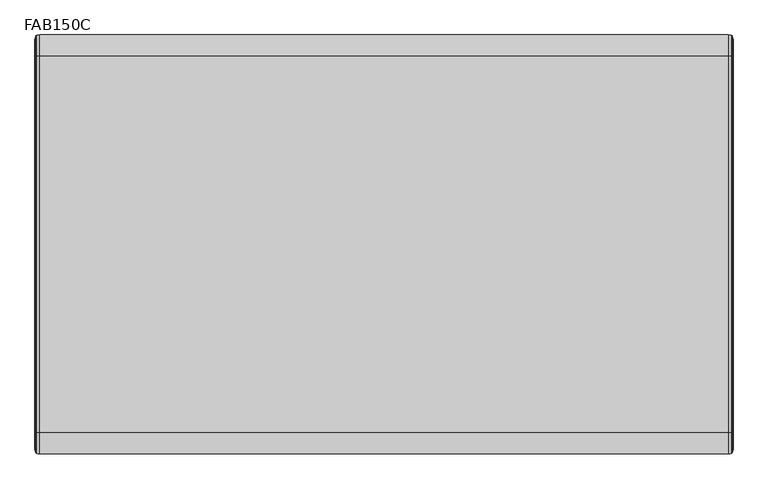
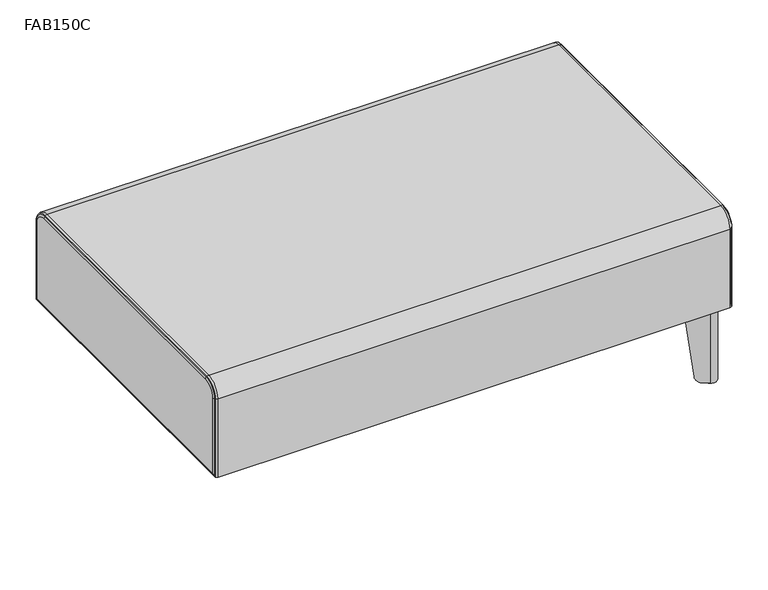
"""IFC4 building model written with IfcOpenShell, lengths in millimetres: furniture geometry, Stance_HC-Flora-Bench_Straight : FAB150C."""

import ifcopenshell
import ifcopenshell.guid

model = None  # the IFC model being written
_history = None  # IfcOwnerHistory: only IFC2X3 demands one
_inside = {}  # id of a spatial element -> (the spatial element, [elements in it])
_under = {}  # id of a project, library or spatial element -> (it, [spatial elements below it])
_declared = {}  # id of a project -> (the project, [libraries it declares])
_typed = {}  # id of a type object -> (the type object, [elements of that type])
_made_of = {}  # id of a material, layer set ... -> (it, [elements and type objects made of it])


def new_model(schema):
    """Start an empty IFC model of exactly this schema.

    Asked for "IFC4X3", IfcOpenShell would pick the latest addendum, in which some entities
    have other attributes; the version numbers below select the first issue.
    IFC2X3 requires an IfcOwnerHistory on every rooted entity: one is made here for all.
    """
    global model, _history
    if schema == "IFC4X3":
        model = ifcopenshell.file(schema_version=(4, 3, 0, 0))
    else:
        model = ifcopenshell.file(schema=schema)
    _inside.clear()
    _under.clear()
    _declared.clear()
    _typed.clear()
    _made_of.clear()
    _history = None
    if model.schema == "IFC2X3":
        org = make("IfcOrganization", Name="unknown")
        user = make(
            "IfcPersonAndOrganization",
            ThePerson=make("IfcPerson", FamilyName="unknown"),
            TheOrganization=org,
        )
        app = make(
            "IfcApplication",
            ApplicationDeveloper=org,
            Version="unknown",
            ApplicationFullName="unknown",
            ApplicationIdentifier="unknown",
        )
        _history = make(
            "IfcOwnerHistory",
            OwningUser=user,
            OwningApplication=app,
            ChangeAction="ADDED",
            CreationDate=0,
        )
    return model


def make(cls, **values):
    """One entity of the class cls with the attributes given. An attribute that is None is left unset."""
    return model.create_entity(
        cls, **{name: value for name, value in values.items() if value is not None}
    )


def rooted(cls, **values):
    """An entity with a GlobalId (a new one), such as an element, a storey or a relation."""
    return make(cls, GlobalId=ifcopenshell.guid.new(), OwnerHistory=_history, **values)


def si_unit(unit_type, name, prefix=None):
    """IfcSIUnit, for example si_unit("LENGTHUNIT", "METRE", prefix="MILLI")."""
    return make("IfcSIUnit", UnitType=unit_type, Prefix=prefix, Name=name)


def assignment(units):
    """IfcUnitAssignment: the units of a project."""
    return None if units is None else make("IfcUnitAssignment", Units=units)


def point(xyz):
    """IfcCartesianPoint."""
    return None if xyz is None else make("IfcCartesianPoint", Coordinates=xyz)


def direction(xyz):
    """IfcDirection."""
    return None if xyz is None else make("IfcDirection", DirectionRatios=xyz)


def frame(location, z_axis=None, x_axis=None):
    """IfcAxis2Placement3D, a coordinate frame: its origin and axes. An axis left out is left unset."""
    return make(
        "IfcAxis2Placement3D",
        Location=point(location),
        Axis=direction(z_axis),
        RefDirection=direction(x_axis),
    )


def frame_2d(location, x_axis=None):
    """IfcAxis2Placement2D, a coordinate frame in the plane: its origin and x axis."""
    return make(
        "IfcAxis2Placement2D", Location=point(location), RefDirection=direction(x_axis)
    )


def origin():
    """The frame at (0, 0, 0) with its axes left unset."""
    return frame((0.0, 0.0, 0.0))


def origin_with_axes():
    """The frame at (0, 0, 0) with the z axis (0, 0, 1) and the x axis (1, 0, 0) written out."""
    return frame((0.0, 0.0, 0.0), z_axis=(0.0, 0.0, 1.0), x_axis=(1.0, 0.0, 0.0))


def place(relative_to, where):
    """IfcLocalPlacement: puts the frame where relative to a parent placement (None: the world)."""
    return make(
        "IfcLocalPlacement", PlacementRelTo=relative_to, RelativePlacement=where
    )


def context(
    kind, dimensions, precision=None, world=None, true_north=None, identifier=None
):
    """IfcGeometricRepresentationContext, for example the 3D "Model" context."""
    return make(
        "IfcGeometricRepresentationContext",
        ContextIdentifier=identifier,
        ContextType=kind,
        CoordinateSpaceDimension=dimensions,
        Precision=precision,
        WorldCoordinateSystem=world,
        TrueNorth=true_north,
    )


def project(units=None, contexts=None):
    """IfcProject with its units and contexts."""
    return rooted(
        "IfcProject",
        Name="project",
        RepresentationContexts=contexts,
        UnitsInContext=assignment(units),
    )


def spatial(cls, under=None, at=None, **own):
    """A site, building, storey or space (cls), placed at a placement, below another one or the project."""
    s = rooted(cls, ObjectPlacement=at, **own)
    if under is not None:
        _under.setdefault(under.id(), (under, []))[1].append(s)
    return s


def polyline(points):
    """IfcPolyline through the points."""
    return make("IfcPolyline", Points=[point(p) for p in points])


def circle_curve(where, radius):
    """IfcCircle in the frame where."""
    return make("IfcCircle", Position=where, Radius=radius)


def ellipse_curve(where, semi_axis1, semi_axis2):
    """IfcEllipse in the frame where."""
    return make(
        "IfcEllipse", Position=where, SemiAxis1=semi_axis1, SemiAxis2=semi_axis2
    )


def trimmed(basis, trim1, trim2, sense, master):
    """IfcTrimmedCurve: the piece of a basis curve between two trims."""
    return make(
        "IfcTrimmedCurve",
        BasisCurve=basis,
        Trim1=trim1,
        Trim2=trim2,
        SenseAgreement=sense,
        MasterRepresentation=master,
    )


def segment(curve, same_sense, transition):
    """IfcCompositeCurveSegment."""
    return make(
        "IfcCompositeCurveSegment",
        Transition=transition,
        SameSense=same_sense,
        ParentCurve=curve,
    )


def composite_curve(segments, self_intersect=None):
    """IfcCompositeCurve: segments joined end to end."""
    return make("IfcCompositeCurve", Segments=segments, SelfIntersect=self_intersect)


def outline(outer, holes=None, kind="AREA"):
    """IfcArbitraryClosedProfileDef: a profile drawn as a closed curve; with holes, ...WithVoids."""
    if holes is None:
        return make("IfcArbitraryClosedProfileDef", ProfileType=kind, OuterCurve=outer)
    return make(
        "IfcArbitraryProfileDefWithVoids",
        ProfileType=kind,
        OuterCurve=outer,
        InnerCurves=holes,
    )


def extrude(swept, where, along, depth):
    """IfcExtrudedAreaSolid: the profile swept, set in the frame where, extruded along a direction by depth."""
    return make(
        "IfcExtrudedAreaSolid",
        SweptArea=swept,
        Position=where,
        ExtrudedDirection=direction(along),
        Depth=depth,
    )


def shape(context_of_items, identifier, shape_type, items):
    """IfcShapeRepresentation: the items that make up one representation, for example the "Body"."""
    return make(
        "IfcShapeRepresentation",
        ContextOfItems=context_of_items,
        RepresentationIdentifier=identifier,
        RepresentationType=shape_type,
        Items=items,
    )


def source(mapping_origin, context_of_items, identifier, shape_type, items):
    """IfcRepresentationMap: a shape defined once, which mapped items show again and again."""
    return make(
        "IfcRepresentationMap",
        MappingOrigin=mapping_origin,
        MappedRepresentation=shape(context_of_items, identifier, shape_type, items),
    )


def transform(
    local_origin,
    x_axis=None,
    y_axis=None,
    z_axis=None,
    scale=None,
    scale2=None,
    scale3=None,
    uniform=True,
):
    """IfcCartesianTransformationOperator3D, or its non-uniform kind. x_axis, y_axis, z_axis: its Axis1, 2, 3."""
    if uniform:
        return make(
            "IfcCartesianTransformationOperator3D",
            Axis1=direction(x_axis),
            Axis2=direction(y_axis),
            LocalOrigin=point(local_origin),
            Scale=scale,
            Axis3=direction(z_axis),
        )
    return make(
        "IfcCartesianTransformationOperator3DnonUniform",
        Axis1=direction(x_axis),
        Axis2=direction(y_axis),
        LocalOrigin=point(local_origin),
        Scale=scale,
        Axis3=direction(z_axis),
        Scale2=scale2,
        Scale3=scale3,
    )


def mapped(mapping_source, mapping_target):
    """IfcMappedItem: shows the shape of a source again, moved by a transform."""
    return make(
        "IfcMappedItem", MappingSource=mapping_source, MappingTarget=mapping_target
    )


def made_of(thing, what):
    """Note that an element or type object is made of a material, layer set ...; save() writes the relation."""
    if what is not None:
        _made_of.setdefault(what.id(), (what, []))[1].append(thing)
    return thing


def element(
    cls,
    number,
    at=None,
    inside=None,
    cuts=None,
    type_object=None,
    material=None,
    context=None,
    identifier="Body",
    shape_type=None,
    held_by="IfcProductDefinitionShape",
    body=None,
    shapes=None,
    **own,
):
    """One element of the class cls, such as IfcWall. Its Tag is "e" and its number.

    at: its placement. inside: the storey or other place that contains it. cuts: it is an
    opening in that element (IfcRelVoidsElement). A single representation is given by context,
    identifier, shape_type and body (its items); several are given by shapes. held_by: the class
    of the entity that holds the representations. save() writes the other relations.
    """
    e = rooted(cls, Tag="e%d" % number, ObjectPlacement=at, **own)
    if body is not None:
        shapes = [shape(context, identifier, shape_type, body)]
    if shapes is not None:
        e.Representation = make(held_by, Representations=shapes)
    if inside is not None:
        _inside.setdefault(inside.id(), (inside, []))[1].append(e)
    if cuts is not None:
        rooted(
            "IfcRelVoidsElement", RelatingBuildingElement=cuts, RelatedOpeningElement=e
        )
    if type_object is not None:
        _typed.setdefault(type_object.id(), (type_object, []))[1].append(e)
    return made_of(e, material)


def aggregate(whole, parts):
    """IfcRelAggregates: a whole, such as a stair, and the parts it consists of."""
    return rooted("IfcRelAggregates", RelatingObject=whole, RelatedObjects=parts)


def save(model, path):
    """Write the relations noted so far, then the file.

    IfcRelAggregates (storeys below a building ...), IfcRelContainedInSpatialStructure (elements
    in a storey), IfcRelDefinesByType, IfcRelAssociatesMaterial and IfcRelDeclares: one each for
    every whole, place, type object, material and project.
    """
    for whole, parts in _under.values():
        aggregate(whole, parts)
    for where, things in _inside.values():
        rooted(
            "IfcRelContainedInSpatialStructure",
            RelatedElements=things,
            RelatingStructure=where,
        )
    for kind, things in _typed.values():
        rooted("IfcRelDefinesByType", RelatedObjects=things, RelatingType=kind)
    for what, things in _made_of.values():
        rooted("IfcRelAssociatesMaterial", RelatedObjects=things, RelatingMaterial=what)
    for by, libraries in _declared.values():
        rooted("IfcRelDeclares", RelatingContext=by, RelatedDefinitions=libraries)
    model.write(path)


def plane_surface(at):
    """IfcPlane: the flat surface through the origin of the frame at, square to its z axis."""
    return make("IfcPlane", Position=at)


def cylinder_surface(at, radius):
    """IfcCylindricalSurface: all points at the distance radius from the z axis of the frame at."""
    return make("IfcCylindricalSurface", Position=at, Radius=radius)


def revolved_surface(curve, axis_point, axis_direction):
    """IfcSurfaceOfRevolution: the curve turned about the line through axis_point along axis_direction."""
    return make(
        "IfcSurfaceOfRevolution",
        SweptCurve=make("IfcArbitraryOpenProfileDef", ProfileType="CURVE", Curve=curve),
        AxisPosition=make("IfcAxis1Placement", Location=point(axis_point), Axis=direction(axis_direction)),
    )


def advanced_brep(points, edges, surfaces, faces):
    """IfcAdvancedBrep: a solid bounded by faces that lie on surfaces and meet in shared edges.

    An edge is (start, end): straight between two places in points (the first is 0);
    or (start, end, curve); or (start, end, curve, False) where it runs against its curve.
    A face is (place in surfaces, loops), or (place, loops, False) where it looks against
    its surface's normal. A loop lists edges by number (the first is 1), with a minus sign
    where the edge is run from its end to its start. The first loop is the outer one.
    """
    corners = [point(p) for p in points]
    vertices = [make("IfcVertexPoint", VertexGeometry=c) for c in corners]
    made = []
    for start, end, *more in edges:
        made.append(
            make(
                "IfcEdgeCurve",
                EdgeStart=vertices[start],
                EdgeEnd=vertices[end],
                EdgeGeometry=more[0] if more else make("IfcPolyline", Points=[corners[start], corners[end]]),
                SameSense=more[1] if len(more) > 1 else True,
            )
        )
    hull = []
    for where, loops, *sense in faces:
        bounds = []
        for j, loop in enumerate(loops):
            ring = [make("IfcOrientedEdge", EdgeElement=made[abs(k) - 1], Orientation=k > 0) for k in loop]
            bounds.append(
                make(
                    "IfcFaceOuterBound" if j == 0 else "IfcFaceBound",
                    Bound=make("IfcEdgeLoop", EdgeList=ring),
                    Orientation=True,
                )
            )
        hull.append(make("IfcAdvancedFace", Bounds=bounds, FaceSurface=surfaces[where], SameSense=sense[0] if sense else True))
    return make("IfcAdvancedBrep", Outer=make("IfcClosedShell", CfsFaces=hull))


def fab150c_0cfd3284(model_context):
    return source(origin(), model_context, "Body", "SolidModel", [
        extrude(outline(composite_curve([segment(polyline([(1214.1692791, -32.5186459), (1227.4741789, -23.2024186)]), True, "CONTINUOUS"), segment(trimmed(circle_curve(frame_2d((1234.1246983, -32.7003078)), 11.5947965), [point((1227.4741789, -23.2024186))], [point((1243.6225874, -39.3508272))], False, "CARTESIAN"), True, "CONTINUOUS"), segment(polyline([(1243.6225874, -39.3508272), (1234.3063601, -52.6557269), (1214.1692791, -32.5186459)]), True, "CONTINUOUS")], self_intersect=False)), frame((0.0, 0.0, 3.175), z_axis=(0.0, 0.0, 1.0), x_axis=(1.0, 0.0, 0.0)), (0.0, 0.0, 1.0), 3.3792927),
        advanced_brep(
        [(1214.3314582, -86.7866368, 193.6877233), (1246.2555647, -41.1944649, 193.6877233), (1225.6305412, -20.5694413, 193.6877233), (1180.0383719, -52.4935459, 193.6877233), (1181.8820096, -55.1265233, 193.6877233), (1227.4741789, -23.2024186, 193.6877233), (1243.6225874, -39.3508272, 193.6877233), (1211.6984809, -84.9429991, 193.6877233), (1214.3314582, -86.7866368, 189.1419595), (1243.6225874, -39.3508272, 3.1876992), (1233.5018779, -53.8046422, 3.1876992), (1224.3247818, -66.9108427, 17.1280233), (1227.4741789, -23.2024186, 3.1876992), (1199.9141633, -42.5002243, 17.1280233), (1213.0203639, -33.3231282, 3.1876992), (1180.0383719, -52.4935459, 189.1419334), (1225.6305412, -20.5694413, 3.1876992), (1210.7124662, -31.0152305, 3.1876992), (1197.6062656, -40.1923266, 17.1280233), (1246.2555647, -41.1944649, 3.1876992), (1226.6326795, -69.2187405, 17.1280233), (1235.8097756, -56.1125399, 3.1876992)],
        [
            (0, 1),
            (1, 2, circle_curve(frame((1234.1246983, -32.7003078, 193.6877233), z_axis=(0.0, 0.0, 1.0), x_axis=(-1.0, 0.0, 0.0)), 14.8090724)),
            (2, 3),
            (3, 4),
            (4, 5),
            (5, 6, circle_curve(frame((1234.1246983, -32.7003078, 193.6877233), z_axis=(0.0, 0.0, -1.0), x_axis=(-1.0, 0.0, 0.0)), 11.5947965)),
            (6, 7),
            (7, 0),
            (7, 8),
            (8, 0),
            (6, 9),
            (9, 10),
            (10, 11, ellipse_curve(frame((1233.5018779, -53.8046422, 19.0626992), z_axis=(-0.8191509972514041, 0.5735779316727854, 0.0), x_axis=(-0.5735779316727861, -0.8191509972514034, 0.0)), 16.1198923, 15.875)),
            (11, 7),
            (5, 12),
            (12, 9, circle_curve(frame((1234.1246983, -32.7003078, 3.1876992), z_axis=(0.0, 0.0, -1.0), x_axis=(-1.0, 0.0, 0.0)), 11.5947965)),
            (4, 13),
            (13, 14, ellipse_curve(frame((1213.0203639, -33.3231282, 19.0626992), z_axis=(0.5735779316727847, -0.8191509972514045, 0.0), x_axis=(0.8191509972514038, 0.5735779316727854, 0.0)), 16.1198923, 15.875)),
            (14, 12),
            (3, 15),
            (15, 4),
            (2, 16),
            (16, 17),
            (17, 18, ellipse_curve(frame((1210.7124662, -31.0152305, 19.0626992), z_axis=(-0.5735779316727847, 0.8191509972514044, 0.0), x_axis=(0.8191509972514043, 0.573577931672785, 0.0)), 16.1198923, 15.875)),
            (18, 15),
            (1, 19),
            (19, 16, circle_curve(frame((1234.1246983, -32.7003078, 3.1876992), z_axis=(0.0, 0.0, 1.0), x_axis=(-1.0, 0.0, 0.0)), 14.8090724)),
            (8, 20),
            (20, 21, ellipse_curve(frame((1235.8097756, -56.1125399, 19.0626992), z_axis=(0.8191509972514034, -0.5735779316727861, 0.0), x_axis=(-0.5735779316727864, -0.8191509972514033, 0.0)), 16.1198923, 15.875)),
            (21, 19),
            (18, 13),
            (11, 20),
            (21, 10),
            (14, 17),
        ],
        [
            plane_surface(frame((1211.6984809, -84.9429991, 193.6877233), z_axis=(0.0, 0.0, 1.0000000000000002), x_axis=(-0.8191509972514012, 0.5735779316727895, 0.0))),
            plane_surface(frame((1214.3314582, -86.7866368, 193.6877233), z_axis=(-0.5735779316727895, -0.8191509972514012, 0.0), x_axis=(0.0, 0.0, -1.0))),
            plane_surface(frame((1211.6984809, -84.9429991, 193.6877233), z_axis=(-0.8191509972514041, 0.5735779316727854, 0.0), x_axis=(0.0, 0.0, -1.0))),
            revolved_surface(polyline([(1222.5299018, -32.7003078, 3.1876992), (1222.5299018, -32.7003078, 193.6877233)]), (1234.1246983, -32.7003078, 0.0), (0.0, 0.0, -1.0)),
            plane_surface(frame((1227.4741789, -23.2024186, 193.6877233), z_axis=(0.5735779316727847, -0.8191509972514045, 0.0), x_axis=(0.0, 0.0, -1.0))),
            plane_surface(frame((1181.8820096, -55.1265233, 193.6877233), z_axis=(-0.8191509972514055, -0.5735779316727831, 0.0), x_axis=(0.0, 0.0, -1.0))),
            plane_surface(frame((1180.0383719, -52.4935459, 193.6877233), z_axis=(-0.5735779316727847, 0.8191509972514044, 0.0), x_axis=(0.0, 0.0, -1.0))),
            cylinder_surface(frame((1234.1246983, -32.7003078, 0.0), z_axis=(0.0, 0.0, 1.0), x_axis=(-1.0, 0.0, 0.0)), 14.8090724),
            plane_surface(frame((1246.2555647, -41.1944649, 193.6877233), z_axis=(0.8191509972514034, -0.5735779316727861, 0.0), x_axis=(0.0, 0.0, -1.0))),
            plane_surface(frame((1191.7224625, -34.3085234, 17.1280233), z_axis=(-0.7018361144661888, -0.7018361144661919, -0.12186934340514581), x_axis=(0.7071067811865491, -0.707106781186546, 0.0))),
            plane_surface(frame((1224.212818, -1.818168, 3.1876992), z_axis=(0.0, 0.0, -1.0), x_axis=(0.707106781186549, -0.707106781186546, 0.0))),
            cylinder_surface(frame((1243.6497538, -63.9525182, 19.0626992), z_axis=(0.7071067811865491, -0.707106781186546, 0.0), x_axis=(-0.707106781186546, -0.7071067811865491, 0.0)), 15.875),
        ],
        [
            (0, [[1, 2, 3, 4, 5, 6, 7, 8]]),
            (1, [[9, 10, -8]]),
            (2, [[11, 12, 13, 14, -7]]),
            (3, [[15, 16, -11, -6]]),
            (4, [[17, 18, 19, -15, -5]]),
            (5, [[20, 21, -4]]),
            (6, [[22, 23, 24, 25, -20, -3]]),
            (7, [[26, 27, -22, -2]]),
            (8, [[-10, 28, 29, 30, -26, -1]]),
            (9, [[-17, -21, -25, 31]]),
            (9, [[-28, -9, -14, 32]]),
            (10, [[-23, -27, -30, 33, -12, -16, -19, 34]]),
            (11, [[-13, -33, -29, -32]]),
            (11, [[-24, -34, -18, -31]]),
        ],
    ),
        extrude(outline(composite_curve([segment(trimmed(circle_curve(frame_2d((1232.0913541, -34.7252749)), 11.1125), [point((1243.2038541, -34.7252749))], [point((1220.9788541, -34.7252749))], False, "CARTESIAN"), True, "CONTINUOUS"), segment(trimmed(circle_curve(frame_2d((1232.0913541, -34.7252749)), 11.1125), [point((1220.9788541, -34.7252749))], [point((1243.2038541, -34.7252749))], False, "CARTESIAN"), True, "CONTINUOUS")], self_intersect=False)), origin_with_axes(), (0.0, 0.0, 1.0), 3.175),
        extrude(outline(composite_curve([segment(trimmed(circle_curve(frame_2d((1235.4438064, -31.3811988)), 15.8749964), [point((1234.3364228, -15.5448732))], [point((1251.2801321, -32.4885822))], False, "CARTESIAN"), True, "CONTINUOUS"), segment(polyline([(1251.2801321, -32.4885822), (1244.2831602, -132.5499778), (1214.4327865, -162.4003462), (1130.4896864, -136.3353271), (1104.4246518, -52.3922188), (1134.2750239, -22.5418467), (1234.3364228, -15.5448732)]), True, "CONTINUOUS")], self_intersect=False)), frame((0.0, 0.0, 193.6877233), z_axis=(0.0, 0.0, 1.0), x_axis=(1.0, 0.0, 0.0)), (0.0, 0.0, 1.0), 4.7751809),
        extrude(outline(composite_curve([segment(polyline([(1214.1692791, -729.4814086), (1234.3063601, -709.3443276), (1243.6225874, -722.6492273)]), True, "CONTINUOUS"), segment(trimmed(circle_curve(frame_2d((1234.1246983, -729.2997467)), 11.5947965), [point((1243.6225874, -722.6492273))], [point((1227.4741789, -738.7976359))], False, "CARTESIAN"), True, "CONTINUOUS"), segment(polyline([(1227.4741789, -738.7976359), (1214.1692791, -729.4814086)]), True, "CONTINUOUS")], self_intersect=False)), frame((0.0, 0.0, 3.175), z_axis=(0.0, 0.0, 1.0), x_axis=(1.0, 0.0, 0.0)), (0.0, 0.0, 1.0), 3.3792927),
        advanced_brep(
        [(1214.3314582, -675.2134177, 193.6877233), (1211.6984809, -677.0570554, 193.6877233), (1243.6225874, -722.6492273, 193.6877233), (1227.4741789, -738.7976359, 193.6877233), (1181.8820096, -706.8735312, 193.6877233), (1180.0383719, -709.5065086, 193.6877233), (1225.6305412, -741.4306132, 193.6877233), (1246.2555647, -720.8055896, 193.6877233), (1214.3314582, -675.2134177, 189.1419595), (1224.3247818, -695.0892118, 17.1280233), (1233.5018779, -708.1954123, 3.1876992), (1243.6225874, -722.6492273, 3.1876992), (1227.4741789, -738.7976359, 3.1876992), (1213.0203639, -728.6769263, 3.1876992), (1199.9141633, -719.4998302, 17.1280233), (1180.0383719, -709.5065086, 189.1419334), (1197.6062656, -721.8077279, 17.1280233), (1210.7124662, -730.984824, 3.1876992), (1225.6305412, -741.4306132, 3.1876992), (1246.2555647, -720.8055896, 3.1876992), (1235.8097756, -705.8875146, 3.1876992), (1226.6326795, -692.781314, 17.1280233)],
        [
            (0, 1),
            (1, 2),
            (2, 3, circle_curve(frame((1234.1246983, -729.2997467, 193.6877233), z_axis=(0.0, 0.0, -1.0), x_axis=(-1.0, 0.0, 0.0)), 11.5947965)),
            (3, 4),
            (4, 5),
            (5, 6),
            (6, 7, circle_curve(frame((1234.1246983, -729.2997467, 193.6877233), z_axis=(0.0, 0.0, 1.0), x_axis=(-1.0, 0.0, 0.0)), 14.8090724)),
            (7, 0),
            (0, 8),
            (8, 1),
            (1, 9),
            (9, 10, ellipse_curve(frame((1233.5018779, -708.1954123, 19.0626992), z_axis=(-0.8191509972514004, -0.5735779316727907, 0.0), x_axis=(-0.5735779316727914, 0.8191509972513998, 0.0)), 16.1198923, 15.875)),
            (10, 11),
            (11, 2),
            (11, 12, circle_curve(frame((1234.1246983, -729.2997467, 3.1876992), z_axis=(0.0, 0.0, -1.0), x_axis=(-1.0, 0.0, 0.0)), 11.5947965)),
            (12, 3),
            (12, 13),
            (13, 14, ellipse_curve(frame((1213.0203639, -728.6769263, 19.0626992), z_axis=(0.5735779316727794, 0.8191509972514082, 0.0), x_axis=(0.8191509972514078, -0.5735779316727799, 0.0)), 16.1198923, 15.875)),
            (14, 4),
            (4, 15),
            (15, 5),
            (15, 16),
            (16, 17, ellipse_curve(frame((1210.7124662, -730.984824, 19.0626992), z_axis=(-0.5735779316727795, -0.8191509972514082, 0.0), x_axis=(0.8191509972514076, -0.5735779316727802, 0.0)), 16.1198923, 15.875)),
            (17, 18),
            (18, 6),
            (18, 19, circle_curve(frame((1234.1246983, -729.2997467, 3.1876992), z_axis=(0.0, 0.0, 1.0), x_axis=(-1.0, 0.0, 0.0)), 14.8090724)),
            (19, 7),
            (19, 20),
            (20, 21, ellipse_curve(frame((1235.8097756, -705.8875146, 19.0626992), z_axis=(0.8191509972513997, 0.5735779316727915, 0.0), x_axis=(-0.573577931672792, 0.8191509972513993, 0.0)), 16.1198923, 15.875)),
            (21, 8),
            (14, 16),
            (21, 9),
            (17, 13),
            (10, 20),
        ],
        [
            plane_surface(frame((1211.6984809, -677.0570554, 193.6877233), z_axis=(0.0, 0.0, 0.9999999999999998), x_axis=(-0.8191509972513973, -0.5735779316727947, 0.0))),
            plane_surface(frame((1214.3314582, -675.2134177, 193.6877233), z_axis=(-0.5735779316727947, 0.8191509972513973, 0.0), x_axis=(0.0, 0.0, -1.0))),
            plane_surface(frame((1211.6984809, -677.0570554, 193.6877233), z_axis=(-0.8191509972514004, -0.5735779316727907, 0.0), x_axis=(0.0, 0.0, -1.0))),
            revolved_surface(polyline([(1222.5299018, -729.2997467, 3.1876992), (1222.5299018, -729.2997467, 193.6877233)]), (1234.1246983, -729.2997467, 0.0), (0.0, 0.0, -1.0)),
            plane_surface(frame((1227.4741789, -738.7976359, 193.6877233), z_axis=(0.5735779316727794, 0.8191509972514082, 0.0), x_axis=(0.0, 0.0, -1.0))),
            plane_surface(frame((1181.8820096, -706.8735312, 193.6877233), z_axis=(-0.8191509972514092, 0.5735779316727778, 0.0), x_axis=(0.0, 0.0, -1.0))),
            plane_surface(frame((1180.0383719, -709.5065086, 193.6877233), z_axis=(-0.5735779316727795, -0.8191509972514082, 0.0), x_axis=(0.0, 0.0, -1.0))),
            cylinder_surface(frame((1234.1246983, -729.2997467, 0.0), z_axis=(0.0, 0.0, 1.0), x_axis=(-1.0, 0.0, 0.0)), 14.8090724),
            plane_surface(frame((1246.2555647, -720.8055896, 193.6877233), z_axis=(0.8191509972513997, 0.5735779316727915, 0.0), x_axis=(0.0, 0.0, -1.0))),
            plane_surface(frame((1191.7224625, -727.6915311, 17.1280233), z_axis=(-0.7018361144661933, 0.7018361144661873, -0.12186934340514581), x_axis=(0.7071067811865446, 0.7071067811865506, 0.0))),
            plane_surface(frame((1224.212818, -760.1818865, 3.1876992), z_axis=(0.0, 0.0, -1.0), x_axis=(0.7071067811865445, 0.7071067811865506, 0.0))),
            cylinder_surface(frame((1243.6497538, -698.0475363, 19.0626992), z_axis=(0.7071067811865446, 0.7071067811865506, 0.0), x_axis=(-0.7071067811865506, 0.7071067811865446, 0.0)), 15.875),
        ],
        [
            (0, [[1, 2, 3, 4, 5, 6, 7, 8]]),
            (1, [[-1, 9, 10]]),
            (2, [[-2, 11, 12, 13, 14]]),
            (3, [[-3, -14, 15, 16]]),
            (4, [[-4, -16, 17, 18, 19]]),
            (5, [[-5, 20, 21]]),
            (6, [[-6, -21, 22, 23, 24, 25]]),
            (7, [[-7, -25, 26, 27]]),
            (8, [[-8, -27, 28, 29, 30, -9]]),
            (9, [[31, -22, -20, -19]]),
            (9, [[32, -11, -10, -30]]),
            (10, [[33, -17, -15, -13, 34, -28, -26, -24]]),
            (11, [[-31, -18, -33, -23]]),
            (11, [[-32, -29, -34, -12]]),
        ],
    ),
        extrude(outline(composite_curve([segment(trimmed(circle_curve(frame_2d((1232.0913541, -727.2747796)), 11.1125), [point((1243.2038541, -727.2747796))], [point((1220.9788541, -727.2747796))], False, "CARTESIAN"), True, "CONTINUOUS"), segment(trimmed(circle_curve(frame_2d((1232.0913541, -727.2747796)), 11.1125), [point((1220.9788541, -727.2747796))], [point((1243.2038541, -727.2747796))], False, "CARTESIAN"), True, "CONTINUOUS")], self_intersect=False)), origin_with_axes(), (0.0, 0.0, 1.0), 3.175),
        extrude(outline(composite_curve([segment(polyline([(1234.3364228, -746.4551813), (1134.2750239, -739.4582078), (1104.4246518, -709.6078357), (1130.4896864, -625.6647274), (1214.4327865, -599.5997083), (1244.2831602, -629.4500767), (1251.2801321, -729.5114723)]), True, "CONTINUOUS"), segment(trimmed(circle_curve(frame_2d((1235.4438064, -730.6188557)), 15.8749964), [point((1251.2801321, -729.5114723))], [point((1234.3364228, -746.4551813))], False, "CARTESIAN"), True, "CONTINUOUS")], self_intersect=False)), frame((0.0, 0.0, 193.6877233), z_axis=(0.0, 0.0, 1.0), x_axis=(1.0, 0.0, 0.0)), (0.0, 0.0, 1.0), 4.7751809),
        advanced_brep(
        [(1270.0, -723.9, 431.00625), (1270.0, -753.26875, 401.6375), (1270.0, -753.26875, 207.1687439), (1270.0, -8.73125, 207.1687439), (1270.0, -8.73125, 401.6375), (1270.0, -38.1, 431.00625), (0.0, -753.26875, 401.6375), (0.0, -723.9, 431.00625), (0.0, -38.1, 431.00625), (0.0, -8.73125, 401.6375), (0.0, -8.73125, 207.1687439), (0.0, -753.26875, 207.1687439), (1261.5158065, -762.0, 401.6375), (1261.5158065, -723.9, 439.7375), (8.4841935, -723.9, 439.7375), (8.4841935, -762.0, 401.6375), (8.4841935, -762.0, 198.4374939), (1261.5158065, -762.0, 198.4374939), (8.4841935, 0.0, 198.4374939), (1261.5158065, 0.0, 198.4374939), (8.4841935, 0.0, 401.6375), (1261.5158065, 0.0, 401.6375), (8.4841935, -38.1, 439.7375), (1261.5158065, -38.1, 439.7375), (2.6434528, -758.9617195, 401.6375), (2.6434528, -723.9, 436.6992195), (2.5810757, -760.8954092, 401.6375), (2.5810757, -723.9, 438.6329092), (2.6434528, -758.9617195, 201.4757744), (2.5810757, -760.8954092, 199.5420847), (2.6434528, -3.0382805, 201.4757744), (2.5810757, -1.1045908, 199.5420847), (2.6434528, -3.0382805, 401.6375), (2.5810757, -1.1045908, 401.6375), (2.6434528, -38.1, 436.6992195), (2.5810757, -38.1, 438.6329092), (1267.4189243, -760.8954092, 401.6375), (1267.4189243, -723.9, 438.6329092), (1267.3565472, -758.9617195, 401.6375), (1267.3565472, -723.9, 436.6992195), (1267.4189243, -760.8954092, 199.5420847), (1267.3565472, -758.9617195, 201.4757744), (1267.4189243, -1.1045908, 199.5420847), (1267.3565472, -3.0382805, 201.4757744), (1267.4189243, -1.1045908, 401.6375), (1267.3565472, -3.0382805, 401.6375), (1267.4189243, -38.1, 438.6329092), (1267.3565472, -38.1, 436.6992195)],
        [
            (0, 1, circle_curve(frame((1270.0, -723.9, 401.6375), z_axis=(1.0, 0.0, 0.0), x_axis=(0.0, 0.0, 1.0)), 29.36875)),
            (1, 2),
            (2, 3),
            (3, 4),
            (4, 5, circle_curve(frame((1270.0, -38.1, 401.6375), z_axis=(1.0, 0.0, 0.0), x_axis=(0.0, 1.0, 0.0)), 29.36875)),
            (5, 0),
            (6, 7, circle_curve(frame((0.0, -723.9, 401.6375), z_axis=(-1.0, 0.0, 0.0), x_axis=(0.0, 0.0, 1.0)), 29.36875)),
            (7, 8),
            (8, 9, circle_curve(frame((0.0, -38.1, 401.6375), z_axis=(-1.0, 0.0, 0.0), x_axis=(0.0, 1.0, 0.0)), 29.36875)),
            (9, 10),
            (10, 11),
            (11, 6),
            (12, 13, circle_curve(frame((1261.5158065, -723.9, 401.6375), z_axis=(-1.0, 0.0, 0.0), x_axis=(0.0, 0.0, 1.0)), 38.1)),
            (13, 14),
            (14, 15, circle_curve(frame((8.4841935, -723.9, 401.6375), z_axis=(1.0, 0.0, 0.0), x_axis=(0.0, 0.0, 1.0)), 38.1)),
            (15, 12),
            (15, 16),
            (16, 17),
            (17, 12),
            (16, 18),
            (18, 19),
            (19, 17),
            (18, 20),
            (20, 21),
            (21, 19),
            (20, 22, circle_curve(frame((8.4841935, -38.1, 401.6375), z_axis=(1.0, 0.0, 0.0), x_axis=(0.0, 1.0, 0.0)), 38.1)),
            (22, 23),
            (23, 21, circle_curve(frame((1261.5158065, -38.1, 401.6375), z_axis=(-1.0, 0.0, 0.0), x_axis=(0.0, 1.0, 0.0)), 38.1)),
            (13, 23),
            (22, 14),
            (24, 25, circle_curve(frame((2.6434528, -723.9, 401.6375), z_axis=(-1.0, 0.0, 0.0), x_axis=(0.0, 0.0, 1.0)), 35.0617195)),
            (25, 7, circle_curve(frame((7.4519478, -723.9, 431.00625), z_axis=(0.0, -1.0, 0.0), x_axis=(0.0, 0.0, -1.0)), 7.4519478)),
            (6, 24, circle_curve(frame((7.4519478, -753.26875, 401.6375), z_axis=(0.0, 0.0, 1.0), x_axis=(0.0, 1.0, 0.0)), 7.4519478)),
            (24, 26, circle_curve(frame((2.9517888, -759.9395168, 401.6375), z_axis=(0.0, 0.0, 1.0), x_axis=(0.0, 1.0, 0.0)), 1.0252602)),
            (26, 27, circle_curve(frame((2.5810757, -723.9, 401.6375), z_axis=(-1.0, 0.0, 0.0), x_axis=(0.0, 0.0, 1.0)), 36.9954092)),
            (27, 25, circle_curve(frame((2.9517888, -723.9, 437.6770168), z_axis=(0.0, -1.0, 0.0), x_axis=(0.0, 0.0, -1.0)), 1.0252602)),
            (14, 27, circle_curve(frame((8.4841935, -723.9, 423.4115809), z_axis=(0.0, -1.0, 0.0), x_axis=(0.0, 0.0, -1.0)), 16.3259191)),
            (26, 15, circle_curve(frame((8.4841935, -745.6740809, 401.6375), z_axis=(0.0, 0.0, 1.0), x_axis=(0.0, 1.0, 0.0)), 16.3259191)),
            (11, 28, ellipse_curve(frame((7.4519478, -753.26875, 207.1687439), z_axis=(0.0, -0.7071067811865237, 0.7071067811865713), x_axis=(0.0, 0.7071067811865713, 0.7071067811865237)), 10.5386456, 7.4519478)),
            (28, 24),
            (28, 29, ellipse_curve(frame((2.9517888, -759.9395168, 200.4979772), z_axis=(0.0, -0.7071067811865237, 0.7071067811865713), x_axis=(0.0, 0.7071067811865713, 0.7071067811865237)), 1.4499369, 1.0252602)),
            (29, 26),
            (29, 16, ellipse_curve(frame((8.4841935, -745.6740809, 214.763413), z_axis=(0.0, -0.7071067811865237, 0.7071067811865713), x_axis=(0.0, 0.7071067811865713, 0.7071067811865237)), 23.0883362, 16.3259191)),
            (10, 30, ellipse_curve(frame((7.4519478, -8.73125, 207.1687439), z_axis=(0.0, -0.7071067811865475, -0.7071067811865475), x_axis=(0.0, -0.7071067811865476, 0.7071067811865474)), 10.5386456, 7.4519478)),
            (30, 28),
            (30, 31, ellipse_curve(frame((2.9517888, -2.0604832, 200.4979772), z_axis=(0.0, -0.7071067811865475, -0.7071067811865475), x_axis=(0.0, -0.7071067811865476, 0.7071067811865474)), 1.4499369, 1.0252602)),
            (31, 29),
            (31, 18, ellipse_curve(frame((8.4841935, -16.3259191, 214.763413), z_axis=(0.0, -0.7071067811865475, -0.7071067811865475), x_axis=(0.0, -0.7071067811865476, 0.7071067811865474)), 23.0883362, 16.3259191)),
            (9, 32, circle_curve(frame((7.4519478, -8.73125, 401.6375), z_axis=(0.0, 0.0, -1.0), x_axis=(0.0, -1.0, 0.0)), 7.4519478)),
            (32, 30),
            (32, 33, circle_curve(frame((2.9517888, -2.0604832, 401.6375), z_axis=(0.0, 0.0, -1.0), x_axis=(0.0, -1.0, 0.0)), 1.0252602)),
            (33, 31),
            (33, 20, circle_curve(frame((8.4841935, -16.3259191, 401.6375), z_axis=(0.0, 0.0, -1.0), x_axis=(0.0, -1.0, 0.0)), 16.3259191)),
            (8, 34, circle_curve(frame((7.4519478, -38.1, 431.00625), z_axis=(0.0, 1.0, 0.0), x_axis=(0.0, 0.0, -1.0)), 7.4519478)),
            (34, 32, circle_curve(frame((2.6434528, -38.1, 401.6375), z_axis=(-1.0, 0.0, 0.0), x_axis=(0.0, 1.0, 0.0)), 35.0617195)),
            (34, 35, circle_curve(frame((2.9517888, -38.1, 437.6770168), z_axis=(0.0, 1.0, 0.0), x_axis=(0.0, 0.0, -1.0)), 1.0252602)),
            (35, 33, circle_curve(frame((2.5810757, -38.1, 401.6375), z_axis=(-1.0, 0.0, 0.0), x_axis=(0.0, 1.0, 0.0)), 36.9954092)),
            (35, 22, circle_curve(frame((8.4841935, -38.1, 423.4115809), z_axis=(0.0, 1.0, 0.0), x_axis=(0.0, 0.0, -1.0)), 16.3259191)),
            (25, 34),
            (27, 35),
            (12, 36, circle_curve(frame((1261.5158065, -745.6740809, 401.6375), z_axis=(0.0, 0.0, 1.0), x_axis=(0.0, 1.0, 0.0)), 16.3259191)),
            (36, 37, circle_curve(frame((1267.4189243, -723.9, 401.6375), z_axis=(-1.0, 0.0, 0.0), x_axis=(0.0, 0.0, 1.0)), 36.9954092)),
            (37, 13, circle_curve(frame((1261.5158065, -723.9, 423.4115809), z_axis=(0.0, -1.0, 0.0), x_axis=(0.0, 0.0, -1.0)), 16.3259191)),
            (36, 38, circle_curve(frame((1267.0482112, -759.9395168, 401.6375), z_axis=(0.0, 0.0, 1.0), x_axis=(0.0, 1.0, 0.0)), 1.0252602)),
            (38, 39, circle_curve(frame((1267.3565472, -723.9, 401.6375), z_axis=(-1.0, 0.0, 0.0), x_axis=(0.0, 0.0, 1.0)), 35.0617195)),
            (39, 37, circle_curve(frame((1267.0482112, -723.9, 437.6770168), z_axis=(0.0, -1.0, 0.0), x_axis=(0.0, 0.0, -1.0)), 1.0252602)),
            (38, 1, circle_curve(frame((1262.5480522, -753.26875, 401.6375), z_axis=(0.0, 0.0, 1.0), x_axis=(0.0, 1.0, 0.0)), 7.4519478)),
            (0, 39, circle_curve(frame((1262.5480522, -723.9, 431.00625), z_axis=(0.0, -1.0, 0.0), x_axis=(0.0, 0.0, -1.0)), 7.4519478)),
            (17, 40, ellipse_curve(frame((1261.5158065, -745.6740809, 214.763413), z_axis=(0.0, -0.7071067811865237, 0.7071067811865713), x_axis=(0.0, 0.7071067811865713, 0.7071067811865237)), 23.0883362, 16.3259191)),
            (40, 36),
            (40, 41, ellipse_curve(frame((1267.0482112, -759.9395168, 200.4979772), z_axis=(0.0, -0.7071067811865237, 0.7071067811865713), x_axis=(0.0, 0.7071067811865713, 0.7071067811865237)), 1.4499369, 1.0252602)),
            (41, 38),
            (41, 2, ellipse_curve(frame((1262.5480522, -753.26875, 207.1687439), z_axis=(0.0, -0.7071067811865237, 0.7071067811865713), x_axis=(0.0, 0.7071067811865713, 0.7071067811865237)), 10.5386456, 7.4519478)),
            (19, 42, ellipse_curve(frame((1261.5158065, -16.3259191, 214.763413), z_axis=(0.0, -0.7071067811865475, -0.7071067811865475), x_axis=(0.0, -0.7071067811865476, 0.7071067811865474)), 23.0883362, 16.3259191)),
            (42, 40),
            (42, 43, ellipse_curve(frame((1267.0482112, -2.0604832, 200.4979772), z_axis=(0.0, -0.7071067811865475, -0.7071067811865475), x_axis=(0.0, -0.7071067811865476, 0.7071067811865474)), 1.4499369, 1.0252602)),
            (43, 41),
            (43, 3, ellipse_curve(frame((1262.5480522, -8.73125, 207.1687439), z_axis=(0.0, -0.7071067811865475, -0.7071067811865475), x_axis=(0.0, -0.7071067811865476, 0.7071067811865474)), 10.5386456, 7.4519478)),
            (21, 44, circle_curve(frame((1261.5158065, -16.3259191, 401.6375), z_axis=(0.0, 0.0, -1.0), x_axis=(0.0, -1.0, 0.0)), 16.3259191)),
            (44, 42),
            (44, 45, circle_curve(frame((1267.0482112, -2.0604832, 401.6375), z_axis=(0.0, 0.0, -1.0), x_axis=(0.0, -1.0, 0.0)), 1.0252602)),
            (45, 43),
            (45, 4, circle_curve(frame((1262.5480522, -8.73125, 401.6375), z_axis=(0.0, 0.0, -1.0), x_axis=(0.0, -1.0, 0.0)), 7.4519478)),
            (23, 46, circle_curve(frame((1261.5158065, -38.1, 423.4115809), z_axis=(0.0, 1.0, 0.0), x_axis=(0.0, 0.0, -1.0)), 16.3259191)),
            (46, 44, circle_curve(frame((1267.4189243, -38.1, 401.6375), z_axis=(-1.0, 0.0, 0.0), x_axis=(0.0, 1.0, 0.0)), 36.9954092)),
            (46, 47, circle_curve(frame((1267.0482112, -38.1, 437.6770168), z_axis=(0.0, 1.0, 0.0), x_axis=(0.0, 0.0, -1.0)), 1.0252602)),
            (47, 45, circle_curve(frame((1267.3565472, -38.1, 401.6375), z_axis=(-1.0, 0.0, 0.0), x_axis=(0.0, 1.0, 0.0)), 35.0617195)),
            (47, 5, circle_curve(frame((1262.5480522, -38.1, 431.00625), z_axis=(0.0, 1.0, 0.0), x_axis=(0.0, 0.0, -1.0)), 7.4519478)),
            (37, 46),
            (39, 47),
        ],
        [
            plane_surface(frame((1270.0, -723.9, 431.00625), z_axis=(1.0, 0.0, 0.0), x_axis=(0.0, -1.0, 0.0))),
            plane_surface(frame((0.0, -723.9, 431.00625), z_axis=(-1.0, 0.0, 0.0), x_axis=(0.0, 1.0, 0.0))),
            cylinder_surface(frame((0.0, -723.9, 401.6375), z_axis=(1.0, 0.0, 0.0), x_axis=(0.0, 0.0, 1.0)), 38.1),
            plane_surface(frame((8.4841935, -762.0, 401.6375), z_axis=(0.0, -1.0, 0.0), x_axis=(0.0, 0.0, -1.0))),
            plane_surface(frame((8.4841935, -762.0, 198.4374939), z_axis=(0.0, 0.0, -1.0), x_axis=(0.0, 1.0, 0.0))),
            plane_surface(frame((8.4841935, 0.0, 198.4374939), z_axis=(0.0, 1.0, 0.0), x_axis=(0.0, 0.0, 1.0))),
            cylinder_surface(frame((0.0, -38.1, 401.6375), z_axis=(1.0, 0.0, 0.0), x_axis=(0.0, 1.0, 0.0)), 38.1),
            plane_surface(frame((8.4841935, -38.1, 439.7375), z_axis=(0.0, 0.0, 1.0), x_axis=(0.0, -1.0, 0.0))),
            revolved_surface(trimmed(ellipse_curve(frame((7.4519478, -723.9, 431.00625), z_axis=(0.0, 1.0, 0.0), x_axis=(0.0, 0.0, -1.0)), 7.4519478, 7.4519478), [point((0.0, -723.9, 431.00625))], [point((2.6434528, -723.9, 436.6992195))], True, "CARTESIAN"), (0.0, -723.9, 401.6375), (1.0, 0.0, 0.0)),
            revolved_surface(trimmed(ellipse_curve(frame((2.9517888, -723.9, 437.6770168), z_axis=(0.0, 1.0, 0.0), x_axis=(0.0, 0.0, -1.0)), 1.0252602, 1.0252602), [point((2.6434528, -723.9, 436.6992195))], [point((2.5810757, -723.9, 438.6329092))], True, "CARTESIAN"), (0.0, -723.9, 401.6375), (1.0, 0.0, 0.0)),
            revolved_surface(trimmed(ellipse_curve(frame((8.4841935, -723.9, 423.4115809), z_axis=(0.0, 1.0, 0.0), x_axis=(0.0, 0.0, -1.0)), 16.3259191, 16.3259191), [point((2.5810757, -723.9, 438.6329092))], [point((8.4841935, -723.9, 439.7375))], True, "CARTESIAN"), (0.0, -723.9, 401.6375), (1.0, 0.0, 0.0)),
            cylinder_surface(frame((7.4519478, -753.26875, 401.6375), z_axis=(0.0, 0.0, 1.0), x_axis=(0.0, 1.0, 0.0)), 7.4519478),
            cylinder_surface(frame((2.9517888, -759.9395168, 401.6375), z_axis=(0.0, 0.0, 1.0), x_axis=(0.0, 1.0, 0.0)), 1.0252602),
            cylinder_surface(frame((8.4841935, -745.6740809, 401.6375), z_axis=(0.0, 0.0, 1.0), x_axis=(0.0, 1.0, 0.0)), 16.3259191),
            cylinder_surface(frame((7.4519478, -762.0, 207.1687439), z_axis=(0.0, -1.0, 0.0), x_axis=(0.0, 0.0, 1.0)), 7.4519478),
            cylinder_surface(frame((2.9517888, -762.0, 200.4979772), z_axis=(0.0, -1.0, 0.0), x_axis=(0.0, 0.0, 1.0)), 1.0252602),
            cylinder_surface(frame((8.4841935, -762.0, 214.763413), z_axis=(0.0, -1.0, 0.0), x_axis=(0.0, 0.0, 1.0)), 16.3259191),
            cylinder_surface(frame((7.4519478, -8.73125, 198.4374939), z_axis=(0.0, 0.0, -1.0), x_axis=(0.0, -1.0, 0.0)), 7.4519478),
            cylinder_surface(frame((2.9517888, -2.0604832, 198.4374939), z_axis=(0.0, 0.0, -1.0), x_axis=(0.0, -1.0, 0.0)), 1.0252602),
            cylinder_surface(frame((8.4841935, -16.3259191, 198.4374939), z_axis=(0.0, 0.0, -1.0), x_axis=(0.0, -1.0, 0.0)), 16.3259191),
            revolved_surface(trimmed(ellipse_curve(frame((7.4519478, -8.73125, 401.6375), z_axis=(0.0, 0.0, -1.0), x_axis=(0.0, -1.0, 0.0)), 7.4519478, 7.4519478), [point((0.0, -8.73125, 401.6375))], [point((2.6434528, -3.0382805, 401.6375))], True, "CARTESIAN"), (0.0, -38.1, 401.6375), (1.0, 0.0, 0.0)),
            revolved_surface(trimmed(ellipse_curve(frame((2.9517888, -2.0604832, 401.6375), z_axis=(0.0, 0.0, -1.0), x_axis=(0.0, -1.0, 0.0)), 1.0252602, 1.0252602), [point((2.6434528, -3.0382805, 401.6375))], [point((2.5810757, -1.1045908, 401.6375))], True, "CARTESIAN"), (0.0, -38.1, 401.6375), (1.0, 0.0, 0.0)),
            revolved_surface(trimmed(ellipse_curve(frame((8.4841935, -16.3259191, 401.6375), z_axis=(0.0, 0.0, -1.0), x_axis=(0.0, -1.0, 0.0)), 16.3259191, 16.3259191), [point((2.5810757, -1.1045908, 401.6375))], [point((8.4841935, 0.0, 401.6375))], True, "CARTESIAN"), (0.0, -38.1, 401.6375), (1.0, 0.0, 0.0)),
            cylinder_surface(frame((7.4519478, -38.1, 431.00625), z_axis=(0.0, 1.0, 0.0), x_axis=(0.0, 0.0, -1.0)), 7.4519478),
            cylinder_surface(frame((2.9517888, -38.1, 437.6770168), z_axis=(0.0, 1.0, 0.0), x_axis=(0.0, 0.0, -1.0)), 1.0252602),
            cylinder_surface(frame((8.4841935, -38.1, 423.4115809), z_axis=(0.0, 1.0, 0.0), x_axis=(0.0, 0.0, -1.0)), 16.3259191),
            revolved_surface(trimmed(ellipse_curve(frame((1261.5158065, -723.9, 423.4115809), z_axis=(0.0, 1.0, 0.0), x_axis=(0.0, 0.0, -1.0)), 16.3259191, 16.3259191), [point((1261.5158065, -723.9, 439.7375))], [point((1267.4189243, -723.9, 438.6329092))], True, "CARTESIAN"), (0.0, -723.9, 401.6375), (1.0, 0.0, 0.0)),
            revolved_surface(trimmed(ellipse_curve(frame((1267.0482112, -723.9, 437.6770168), z_axis=(0.0, 1.0, 0.0), x_axis=(0.0, 0.0, -1.0)), 1.0252602, 1.0252602), [point((1267.4189243, -723.9, 438.6329092))], [point((1267.3565472, -723.9, 436.6992195))], True, "CARTESIAN"), (0.0, -723.9, 401.6375), (1.0, 0.0, 0.0)),
            revolved_surface(trimmed(ellipse_curve(frame((1262.5480522, -723.9, 431.00625), z_axis=(0.0, 1.0, 0.0), x_axis=(0.0, 0.0, -1.0)), 7.4519478, 7.4519478), [point((1267.3565472, -723.9, 436.6992195))], [point((1270.0, -723.9, 431.00625))], True, "CARTESIAN"), (0.0, -723.9, 401.6375), (1.0, 0.0, 0.0)),
            cylinder_surface(frame((1261.5158065, -745.6740809, 401.6375), z_axis=(0.0, 0.0, 1.0), x_axis=(0.0, 1.0, 0.0)), 16.3259191),
            cylinder_surface(frame((1267.0482112, -759.9395168, 401.6375), z_axis=(0.0, 0.0, 1.0), x_axis=(0.0, 1.0, 0.0)), 1.0252602),
            cylinder_surface(frame((1262.5480522, -753.26875, 401.6375), z_axis=(0.0, 0.0, 1.0), x_axis=(0.0, 1.0, 0.0)), 7.4519478),
            cylinder_surface(frame((1261.5158065, -762.0, 214.763413), z_axis=(0.0, -1.0, 0.0), x_axis=(0.0, 0.0, 1.0)), 16.3259191),
            cylinder_surface(frame((1267.0482112, -762.0, 200.4979772), z_axis=(0.0, -1.0, 0.0), x_axis=(0.0, 0.0, 1.0)), 1.0252602),
            cylinder_surface(frame((1262.5480522, -762.0, 207.1687439), z_axis=(0.0, -1.0, 0.0), x_axis=(0.0, 0.0, 1.0)), 7.4519478),
            cylinder_surface(frame((1261.5158065, -16.3259191, 198.4374939), z_axis=(0.0, 0.0, -1.0), x_axis=(0.0, -1.0, 0.0)), 16.3259191),
            cylinder_surface(frame((1267.0482112, -2.0604832, 198.4374939), z_axis=(0.0, 0.0, -1.0), x_axis=(0.0, -1.0, 0.0)), 1.0252602),
            cylinder_surface(frame((1262.5480522, -8.73125, 198.4374939), z_axis=(0.0, 0.0, -1.0), x_axis=(0.0, -1.0, 0.0)), 7.4519478),
            revolved_surface(trimmed(ellipse_curve(frame((1261.5158065, -16.3259191, 401.6375), z_axis=(0.0, 0.0, -1.0), x_axis=(0.0, -1.0, 0.0)), 16.3259191, 16.3259191), [point((1261.5158065, 0.0, 401.6375))], [point((1267.4189243, -1.1045908, 401.6375))], True, "CARTESIAN"), (0.0, -38.1, 401.6375), (1.0, 0.0, 0.0)),
            revolved_surface(trimmed(ellipse_curve(frame((1267.0482112, -2.0604832, 401.6375), z_axis=(0.0, 0.0, -1.0), x_axis=(0.0, -1.0, 0.0)), 1.0252602, 1.0252602), [point((1267.4189243, -1.1045908, 401.6375))], [point((1267.3565472, -3.0382805, 401.6375))], True, "CARTESIAN"), (0.0, -38.1, 401.6375), (1.0, 0.0, 0.0)),
            revolved_surface(trimmed(ellipse_curve(frame((1262.5480522, -8.73125, 401.6375), z_axis=(0.0, 0.0, -1.0), x_axis=(0.0, -1.0, 0.0)), 7.4519478, 7.4519478), [point((1267.3565472, -3.0382805, 401.6375))], [point((1270.0, -8.73125, 401.6375))], True, "CARTESIAN"), (0.0, -38.1, 401.6375), (1.0, 0.0, 0.0)),
            cylinder_surface(frame((1261.5158065, -38.1, 423.4115809), z_axis=(0.0, 1.0, 0.0), x_axis=(0.0, 0.0, -1.0)), 16.3259191),
            cylinder_surface(frame((1267.0482112, -38.1, 437.6770168), z_axis=(0.0, 1.0, 0.0), x_axis=(0.0, 0.0, -1.0)), 1.0252602),
            cylinder_surface(frame((1262.5480522, -38.1, 431.00625), z_axis=(0.0, 1.0, 0.0), x_axis=(0.0, 0.0, -1.0)), 7.4519478),
        ],
        [
            (0, [[1, 2, 3, 4, 5, 6]]),
            (1, [[7, 8, 9, 10, 11, 12]]),
            (2, [[13, 14, 15, 16]]),
            (3, [[-16, 17, 18, 19]]),
            (4, [[-18, 20, 21, 22]]),
            (5, [[-21, 23, 24, 25]]),
            (6, [[-24, 26, 27, 28]]),
            (7, [[-14, 29, -27, 30]]),
            (8, [[31, 32, -7, 33]]),
            (9, [[-31, 34, 35, 36]]),
            (10, [[-15, 37, -35, 38]]),
            (11, [[-33, -12, 39, 40]]),
            (12, [[-34, -40, 41, 42]]),
            (13, [[-17, -38, -42, 43]]),
            (14, [[-39, -11, 44, 45]]),
            (15, [[-41, -45, 46, 47]]),
            (16, [[-20, -43, -47, 48]]),
            (17, [[-44, -10, 49, 50]]),
            (18, [[-46, -50, 51, 52]]),
            (19, [[-23, -48, -52, 53]]),
            (20, [[-49, -9, 54, 55]]),
            (21, [[-51, -55, 56, 57]]),
            (22, [[-26, -53, -57, 58]]),
            (23, [[-32, 59, -54, -8]]),
            (24, [[-36, 60, -56, -59]]),
            (25, [[-30, -58, -60, -37]]),
            (26, [[-13, 61, 62, 63]]),
            (27, [[-62, 64, 65, 66]]),
            (28, [[-65, 67, -1, 68]]),
            (29, [[-19, 69, 70, -61]]),
            (30, [[-64, -70, 71, 72]]),
            (31, [[-67, -72, 73, -2]]),
            (32, [[-22, 74, 75, -69]]),
            (33, [[-71, -75, 76, 77]]),
            (34, [[-73, -77, 78, -3]]),
            (35, [[-25, 79, 80, -74]]),
            (36, [[-76, -80, 81, 82]]),
            (37, [[-78, -82, 83, -4]]),
            (38, [[-28, 84, 85, -79]]),
            (39, [[-81, -85, 86, 87]]),
            (40, [[-83, -87, 88, -5]]),
            (41, [[-29, -63, 89, -84]]),
            (42, [[-66, 90, -86, -89]]),
            (43, [[-68, -6, -88, -90]]),
        ],
    ),
    ])


if __name__ == "__main__":
    model = new_model("IFC4")
    model_context = context("Model", 3, world=origin())
    ifc_project = project(units=[si_unit("LENGTHUNIT", "METRE", prefix="MILLI")], contexts=[model_context])
    site = spatial("IfcSite", under=ifc_project)
    building = spatial("IfcBuilding", under=site)
    placement = place(None, origin())
    fab150c_shape = fab150c_0cfd3284(model_context)
    element("IfcFurniture", 1, ObjectType="Stance_HC-Flora-Bench_Straight : FAB150C", at=placement, inside=building, context=model_context, shape_type="MappedRepresentation", body=[
        mapped(fab150c_shape, transform((0.0, 0.0, 0.0), x_axis=(1.0, 0.0, 0.0), y_axis=(0.0, 1.0, 0.0), z_axis=(0.0, 0.0, 1.0))),
    ])
    save(model, "model.ifc")
